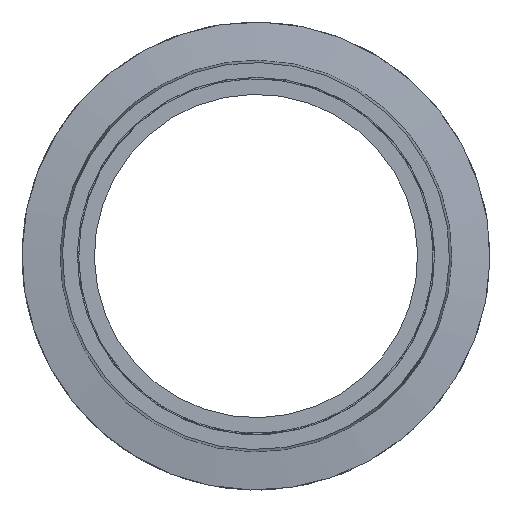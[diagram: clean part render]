
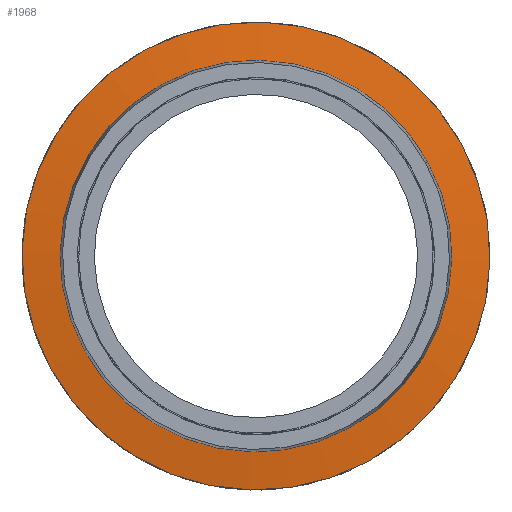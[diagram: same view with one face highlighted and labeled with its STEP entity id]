
A CAD part, left-side view. The second image highlights one B-rep face of the part: STEP entity #1968.
In plain terms, the highlighted conical face has half-angle 83 degrees and reference radius 22.466 mm.
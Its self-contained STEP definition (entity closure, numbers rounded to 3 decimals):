
#79=CONICAL_SURFACE('',#2182,22.466,1.449);
#153=FACE_BOUND('',#400,.T.);
#234=FACE_OUTER_BOUND('',#399,.T.);
#399=EDGE_LOOP('',(#1458));
#400=EDGE_LOOP('',(#1459,#1460));
#549=CIRCLE('',#2056,22.469);
#587=CIRCLE('',#2101,22.469);
#633=CIRCLE('',#2167,26.85);
#715=VERTEX_POINT('',#3094);
#716=VERTEX_POINT('',#3103);
#844=VERTEX_POINT('',#10296);
#892=EDGE_CURVE('',#715,#716,#549,.T.);
#966=EDGE_CURVE('',#715,#716,#587,.T.);
#1060=EDGE_CURVE('',#844,#844,#633,.T.);
#1458=ORIENTED_EDGE('',*,*,#1060,.T.);
#1459=ORIENTED_EDGE('',*,*,#892,.F.);
#1460=ORIENTED_EDGE('',*,*,#966,.T.);
#1968=ADVANCED_FACE('',(#234,#153),#79,.T.);
#2056=AXIS2_PLACEMENT_3D('',#3104,#2276,#2277);
#2101=AXIS2_PLACEMENT_3D('',#6382,#2369,#2370);
#2167=AXIS2_PLACEMENT_3D('',#10297,#2503,#2504);
#2182=AXIS2_PLACEMENT_3D('',#11423,#2533,#2534);
#2276=DIRECTION('center_axis',(-1.,0.,0.));
#2277=DIRECTION('ref_axis',(0.,0.878,-0.479));
#2369=DIRECTION('center_axis',(1.,0.,0.));
#2370=DIRECTION('ref_axis',(0.,0.878,-0.479));
#2503=DIRECTION('center_axis',(-1.,0.,0.));
#2504=DIRECTION('ref_axis',(0.,-0.878,0.479));
#2533=DIRECTION('center_axis',(1.,0.,0.));
#2534=DIRECTION('ref_axis',(0.,-0.878,0.479));
#3094=CARTESIAN_POINT('',(-44.351,-19.718,10.772));
#3103=CARTESIAN_POINT('',(-44.351,19.718,-10.772));
#3104=CARTESIAN_POINT('Origin',(-44.351,0.,0.));
#6382=CARTESIAN_POINT('Origin',(-44.351,0.,
0.));
#10296=CARTESIAN_POINT('',(-43.813,23.563,-12.873));
#10297=CARTESIAN_POINT('Origin',(-43.813,0.,0.));
#11423=CARTESIAN_POINT('Origin',(-44.351,0.,0.));
